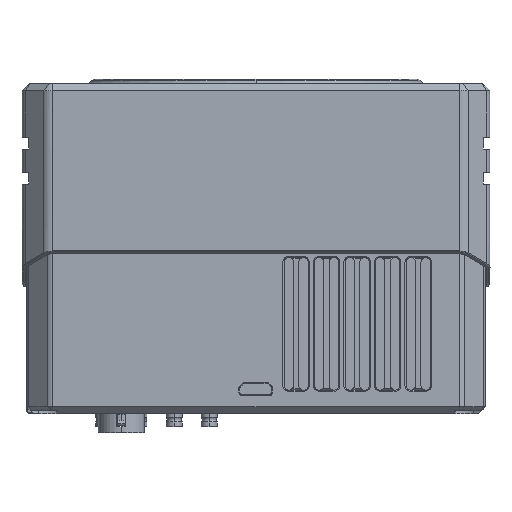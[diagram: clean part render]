
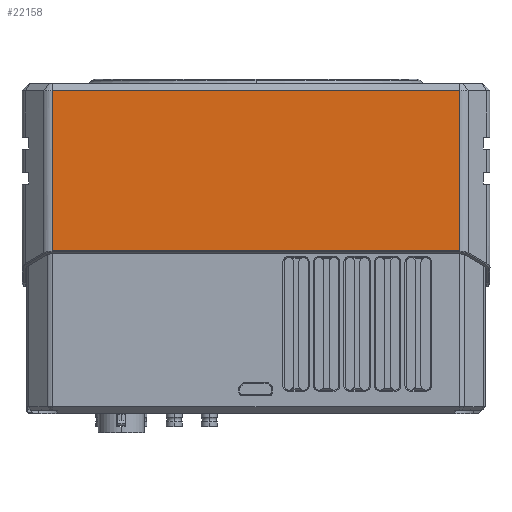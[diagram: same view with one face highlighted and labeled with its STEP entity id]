
A CAD part, left-side view. The second image highlights one B-rep face of the part: STEP entity #22158.
In plain terms, the highlighted planar face has unit normal (-1, 0, 0).
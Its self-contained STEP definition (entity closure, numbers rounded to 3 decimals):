
#4764=DIRECTION('',(0.,0.,1.));
#4765=VECTOR('',#4764,41.091);
#4766=CARTESIAN_POINT('',(-60.,-52.257,
-21.011));
#4767=LINE('',#4766,#4765);
#4772=DIRECTION('',(0.,-1.,0.));
#4773=VECTOR('',#4772,104.515);
#4774=CARTESIAN_POINT('',(-60.,52.257,
-21.011));
#4775=LINE('',#4774,#4773);
#4789=DIRECTION('',(0.,0.,-1.));
#4790=VECTOR('',#4789,41.091);
#4791=CARTESIAN_POINT('',(-60.,52.257,20.08));
#4792=LINE('',#4791,#4790);
#5267=DIRECTION('',(0.,1.,0.));
#5268=VECTOR('',#5267,104.515);
#5269=CARTESIAN_POINT('',(-60.,-52.257,
20.08));
#5270=LINE('',#5269,#5268);
#12170=CARTESIAN_POINT('',(-60.,52.257,
-21.011));
#12171=CARTESIAN_POINT('',(-60.,-52.257,
-21.011));
#12172=VERTEX_POINT('',#12170);
#12173=VERTEX_POINT('',#12171);
#12182=CARTESIAN_POINT('',(-60.,-52.257,
20.08));
#12183=VERTEX_POINT('',#12182);
#12276=CARTESIAN_POINT('',(-60.,52.257,
20.08));
#12277=VERTEX_POINT('',#12276);
#22145=CARTESIAN_POINT('',(-60.,0.,-0.465));
#22146=DIRECTION('',(1.,0.,0.));
#22147=DIRECTION('',(0.,-1.,0.));
#22148=AXIS2_PLACEMENT_3D('',#22145,#22146,#22147);
#22149=PLANE('',#22148);
#22150=ORIENTED_EDGE('',*,*,#22136,.F.);
#22152=ORIENTED_EDGE('',*,*,#22151,.F.);
#22154=ORIENTED_EDGE('',*,*,#22153,.F.);
#22155=ORIENTED_EDGE('',*,*,#22078,.F.);
#22156=EDGE_LOOP('',(#22150,#22152,#22154,#22155));
#22157=FACE_OUTER_BOUND('',#22156,.F.);
#22158=ADVANCED_FACE('',(#22157),#22149,.F.);
#22078=EDGE_CURVE('',#12173,#12183,#4767,.T.);
#22136=EDGE_CURVE('',#12172,#12173,#4775,.T.);
#22151=EDGE_CURVE('',#12277,#12172,#4792,.T.);
#22153=EDGE_CURVE('',#12183,#12277,#5270,.T.);
